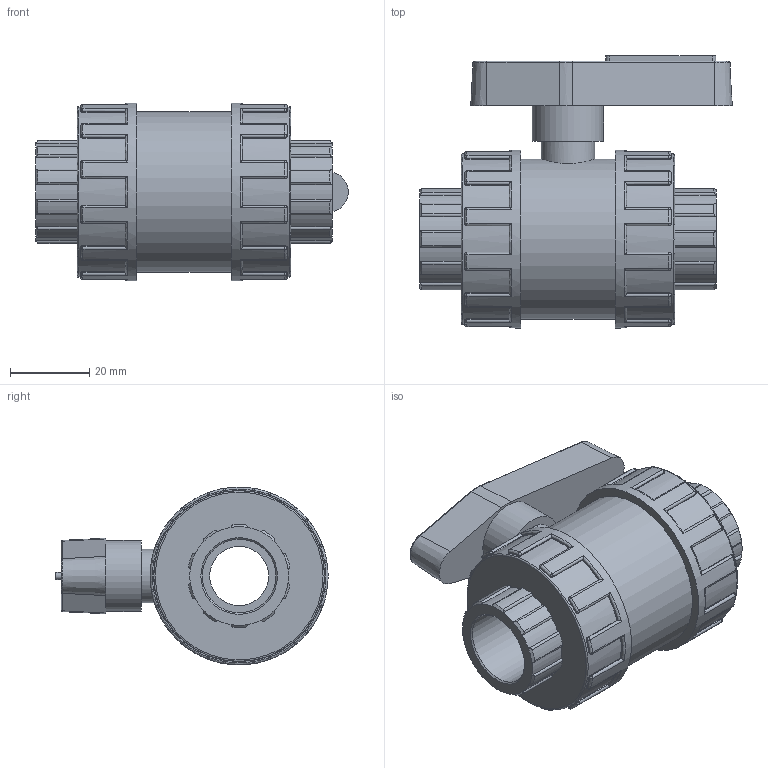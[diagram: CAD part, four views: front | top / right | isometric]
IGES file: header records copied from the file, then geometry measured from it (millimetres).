
Global section: file name: 11151005.ipt; native system: Autodesk Inventor 2015; preprocessor: unknown; author: KIM; date: 20171207.170226; units: millimetre
Bounding box: 79.07 x 68.85 x 45 mm (x, y, z)
Volume: 84224.1 mm3; surface area: 20386.8 mm2
Topology: 1 solids, 1 shells, 434 faces, 1085 edges, 662 vertices
Faces by surface type: cylinder 189, plane 114, revolution 59, sphere 48, cone 24
Full cylindrical faces by diameter (mm): 13.5 x1, 18 x1, 40.5 x1, 43.2 x2, 45 x2
